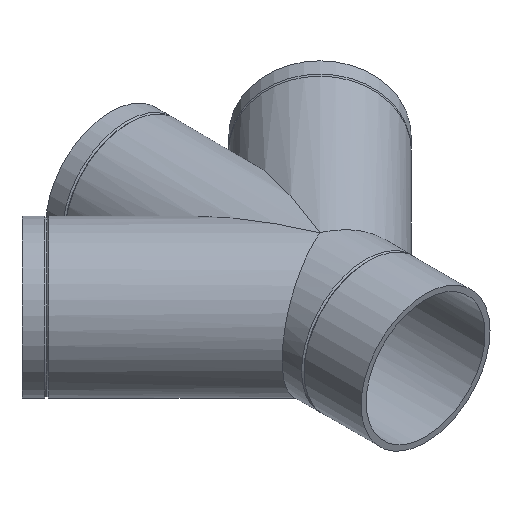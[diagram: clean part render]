
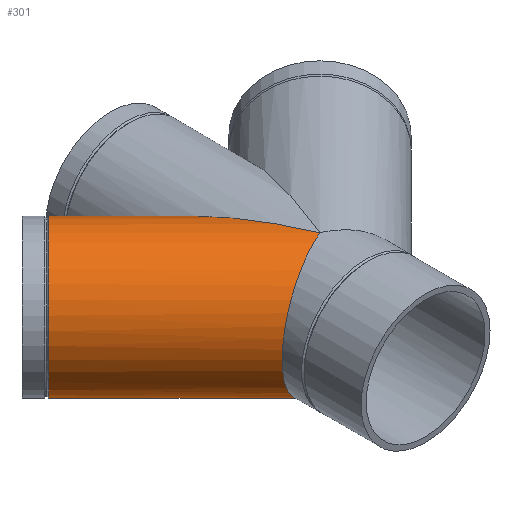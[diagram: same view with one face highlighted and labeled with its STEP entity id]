
A CAD part, isometric view. The second image highlights one B-rep face of the part: STEP entity #301.
In plain terms, the highlighted cylindrical face has radius 55.2 mm (diameter 110.4 mm), a full revolution.
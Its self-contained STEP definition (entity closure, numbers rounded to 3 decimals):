
#16=ELLIPSE($,#326,144.245,55.2);
#22=ELLIPSE($,#344,59.748,55.2);
#28=CYLINDRICAL_SURFACE($,#343,55.2);
#44=FACE_BOUND($,#101,.T.);
#71=FACE_OUTER_BOUND($,#100,.T.);
#100=EDGE_LOOP($,(#224,#225));
#101=EDGE_LOOP($,(#226));
#137=CIRCLE($,#332,55.2);
#155=VERTEX_POINT($,#488);
#156=VERTEX_POINT($,#489);
#159=VERTEX_POINT($,#498);
#179=EDGE_CURVE($,#155,#156,#16,.T.);
#183=EDGE_CURVE($,#159,#159,#137,.T.);
#191=EDGE_CURVE($,#156,#155,#22,.T.);
#224=ORIENTED_EDGE($,*,*,#191,.F.);
#225=ORIENTED_EDGE($,*,*,#179,.F.);
#226=ORIENTED_EDGE($,*,*,#183,.T.);
#301=ADVANCED_FACE($,(#71,#44),#28,.T.);
#326=AXIS2_PLACEMENT_3D($,#490,#386,#387);
#332=AXIS2_PLACEMENT_3D($,#499,#398,#399);
#343=AXIS2_PLACEMENT_3D($,#515,#420,#421);
#344=AXIS2_PLACEMENT_3D($,#516,#422,#423);
#386=DIRECTION('center_axis',(0.924,0.383,0.));
#387=DIRECTION('ref_axis',(0.383,-0.924,0.));
#398=DIRECTION('center_axis',(0.707,-0.707,0.));
#399=DIRECTION('ref_axis',(-0.707,-0.707,0.));
#420=DIRECTION('center_axis',(-0.707,0.707,0.));
#421=DIRECTION('ref_axis',(-0.707,-0.707,0.));
#422=DIRECTION('center_axis',(0.383,-0.924,0.));
#423=DIRECTION('ref_axis',(-0.924,-0.383,0.));
#488=CARTESIAN_POINT('',(0.,90.5,-55.2));
#489=CARTESIAN_POINT('',(0.,90.5,55.2));
#490=CARTESIAN_POINT('Origin',(0.,90.5,0.));
#498=CARTESIAN_POINT('',(-155.278,167.713,0.));
#499=CARTESIAN_POINT('Origin',(-116.246,206.746,0.));
#515=CARTESIAN_POINT('Origin',(-127.633,218.133,0.));
#516=CARTESIAN_POINT('Origin',(0.,90.5,0.));
